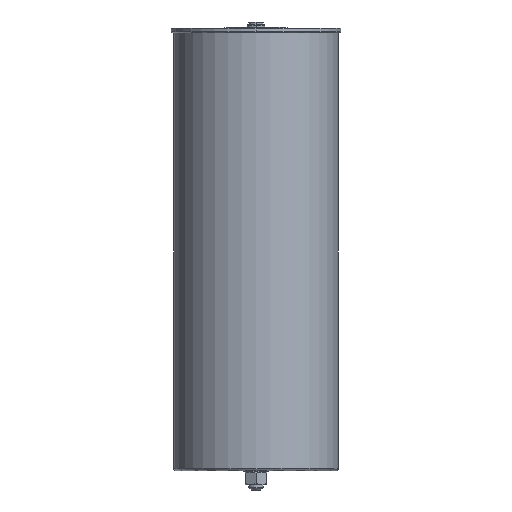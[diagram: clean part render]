
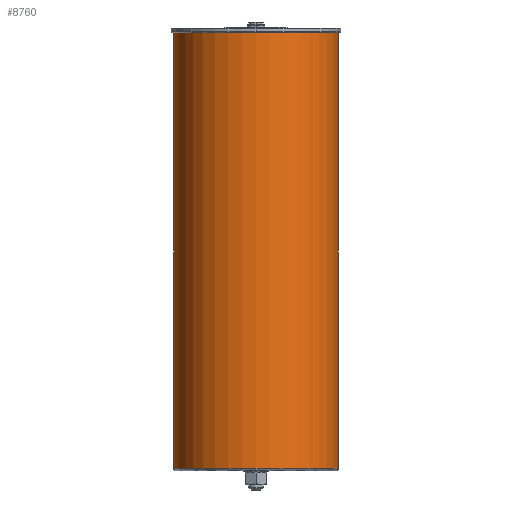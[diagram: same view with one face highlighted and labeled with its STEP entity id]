
A CAD part, left-side view. The second image highlights one B-rep face of the part: STEP entity #8760.
In plain terms, the highlighted cylindrical face has radius 68 mm (diameter 136 mm), a partial arc.
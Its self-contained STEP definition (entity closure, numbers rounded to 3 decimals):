
#404 = ORIENTED_EDGE ( 'NONE', *, *, #13196, .F. ) ;
#550 = DIRECTION ( 'NONE',  ( 0., -1., 0. ) ) ;
#607 = CARTESIAN_POINT ( 'NONE',  ( -68., 0., 0.9 ) ) ;
#1048 = ORIENTED_EDGE ( 'NONE', *, *, #3980, .T. ) ;
#1379 = VERTEX_POINT ( 'NONE', #9635 ) ;
#1408 = AXIS2_PLACEMENT_3D ( 'NONE', #9371, #12460, #550 ) ;
#1507 = DIRECTION ( 'NONE',  ( 0., 1., 0. ) ) ;
#1857 = ORIENTED_EDGE ( 'NONE', *, *, #10544, .T. ) ;
#2253 = AXIS2_PLACEMENT_3D ( 'NONE', #3766, #2710, #10321 ) ;
#2409 = EDGE_LOOP ( 'NONE', ( #1857, #1048, #6605, #404, #13330 ) ) ;
#2418 = CARTESIAN_POINT ( 'NONE',  ( 0., -68., -361. ) ) ;
#2513 = VECTOR ( 'NONE', #5666, 1000. ) ;
#2710 = DIRECTION ( 'NONE',  ( 0., 0., -1. ) ) ;
#3620 = DIRECTION ( 'NONE',  ( 0., 0., -1. ) ) ;
#3766 = CARTESIAN_POINT ( 'NONE',  ( 0., 0., 0.9 ) ) ;
#3980 = EDGE_CURVE ( 'NONE', #5097, #10882, #6815, .T. ) ;
#5097 = VERTEX_POINT ( 'NONE', #10746 ) ;
#5666 = DIRECTION ( 'NONE',  ( 0., 0., -1. ) ) ;
#6109 = LINE ( 'NONE', #2418, #2513 ) ;
#6217 = EDGE_CURVE ( 'NONE', #6619, #6625, #12916, .T. ) ;
#6552 = DIRECTION ( 'NONE',  ( 0., 0., -1. ) ) ;
#6605 = ORIENTED_EDGE ( 'NONE', *, *, #9278, .T. ) ;
#6619 = VERTEX_POINT ( 'NONE', #10293 ) ;
#6625 = VERTEX_POINT ( 'NONE', #607 ) ;
#6716 = CIRCLE ( 'NONE', #9762, 68. ) ;
#6730 = CARTESIAN_POINT ( 'NONE',  ( 0., 68., -361. ) ) ;
#6815 = LINE ( 'NONE', #6730, #10045 ) ;
#7883 = DIRECTION ( 'NONE',  ( 0., 0., 1. ) ) ;
#8220 = CIRCLE ( 'NONE', #8840, 68. ) ;
#8760 = ADVANCED_FACE ( 'NONE', ( #10301 ), #8773, .T. ) ;
#8773 = CYLINDRICAL_SURFACE ( 'NONE', #1408, 68. ) ;
#8840 = AXIS2_PLACEMENT_3D ( 'NONE', #13420, #3620, #1507 ) ;
#9278 = EDGE_CURVE ( 'NONE', #10882, #1379, #6716, .T. ) ;
#9371 = CARTESIAN_POINT ( 'NONE',  ( 0., 0., -361. ) ) ;
#9635 = CARTESIAN_POINT ( 'NONE',  ( 0., -68., -359. ) ) ;
#9762 = AXIS2_PLACEMENT_3D ( 'NONE', #13397, #7883, #11001 ) ;
#10045 = VECTOR ( 'NONE', #6552, 1000. ) ;
#10293 = CARTESIAN_POINT ( 'NONE',  ( 0., -68., 0.9 ) ) ;
#10301 = FACE_OUTER_BOUND ( 'NONE', #2409, .T. ) ;
#10321 = DIRECTION ( 'NONE',  ( 0., 1., 0. ) ) ;
#10544 = EDGE_CURVE ( 'NONE', #6625, #5097, #8220, .T. ) ;
#10746 = CARTESIAN_POINT ( 'NONE',  ( 0., 68., 0.9 ) ) ;
#10882 = VERTEX_POINT ( 'NONE', #12913 ) ;
#11001 = DIRECTION ( 'NONE',  ( 0., -1., 0. ) ) ;
#12460 = DIRECTION ( 'NONE',  ( 0., 0., -1. ) ) ;
#12913 = CARTESIAN_POINT ( 'NONE',  ( 0., 68., -359. ) ) ;
#12916 = CIRCLE ( 'NONE', #2253, 68. ) ;
#13196 = EDGE_CURVE ( 'NONE', #6619, #1379, #6109, .T. ) ;
#13330 = ORIENTED_EDGE ( 'NONE', *, *, #6217, .T. ) ;
#13397 = CARTESIAN_POINT ( 'NONE',  ( 0., 0., -359. ) ) ;
#13420 = CARTESIAN_POINT ( 'NONE',  ( 0., 0., 0.9 ) ) ;
